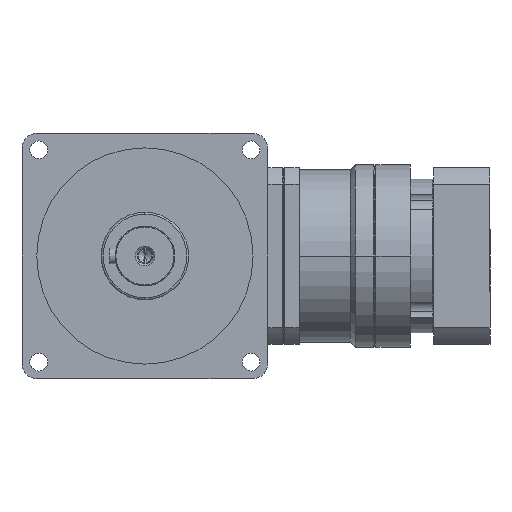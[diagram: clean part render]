
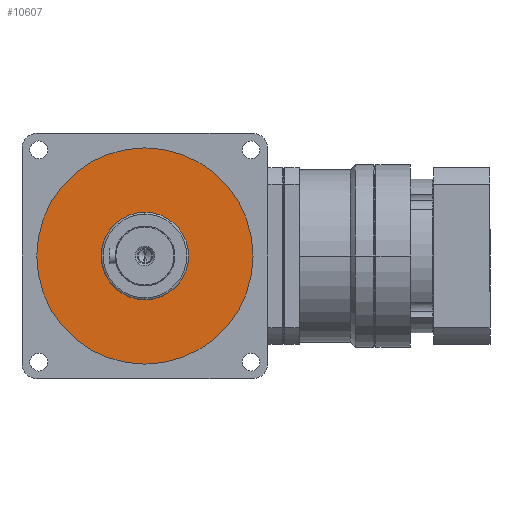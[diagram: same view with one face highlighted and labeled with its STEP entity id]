
A CAD part, left-side view. The second image highlights one B-rep face of the part: STEP entity #10607.
In plain terms, the highlighted planar face has unit normal (-1, 0, 0).
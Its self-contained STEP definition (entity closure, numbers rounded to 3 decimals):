
#434 = ORIENTED_EDGE ( 'NONE', *, *, #3224, .T. ) ;
#851 = EDGE_CURVE ( 'NONE', #5359, #8096, #12232, .T. ) ;
#1315 = CARTESIAN_POINT ( 'NONE',  ( -41.5, 0., 0. ) ) ;
#1388 = DIRECTION ( 'NONE',  ( 0., 0., 1. ) ) ;
#1651 = CARTESIAN_POINT ( 'NONE',  ( -41.5, 0., 0. ) ) ;
#1689 = DIRECTION ( 'NONE',  ( -1., 0., 0. ) ) ;
#1693 = CARTESIAN_POINT ( 'NONE',  ( -41.5, 0., 0. ) ) ;
#2670 = CIRCLE ( 'NONE', #13444, 22.25 ) ;
#2954 = DIRECTION ( 'NONE',  ( -1., 0., 0. ) ) ;
#3088 = DIRECTION ( 'NONE',  ( -1., 0., 0. ) ) ;
#3224 = EDGE_CURVE ( 'NONE', #8096, #5359, #12503, .T. ) ;
#3910 = CIRCLE ( 'NONE', #8794, 22.25 ) ;
#3919 = AXIS2_PLACEMENT_3D ( 'NONE', #12185, #1689, #7589 ) ;
#4235 = VERTEX_POINT ( 'NONE', #5267 ) ;
#4905 = EDGE_LOOP ( 'NONE', ( #10546, #434 ) ) ;
#5007 = DIRECTION ( 'NONE',  ( 0., 0., 1. ) ) ;
#5193 = VERTEX_POINT ( 'NONE', #9332 ) ;
#5267 = CARTESIAN_POINT ( 'NONE',  ( -41.5, 0., -22.25 ) ) ;
#5320 = CARTESIAN_POINT ( 'NONE',  ( -41.5, 0., 0. ) ) ;
#5359 = VERTEX_POINT ( 'NONE', #14076 ) ;
#5898 = AXIS2_PLACEMENT_3D ( 'NONE', #1651, #2954, #14550 ) ;
#7382 = FACE_OUTER_BOUND ( 'NONE', #4905, .T. ) ;
#7589 = DIRECTION ( 'NONE',  ( 0., 0., 1. ) ) ;
#7803 = AXIS2_PLACEMENT_3D ( 'NONE', #1315, #10682, #1388 ) ;
#8096 = VERTEX_POINT ( 'NONE', #9640 ) ;
#8794 = AXIS2_PLACEMENT_3D ( 'NONE', #5320, #3088, #11370 ) ;
#9332 = CARTESIAN_POINT ( 'NONE',  ( -41.5, 0., 22.25 ) ) ;
#9640 = CARTESIAN_POINT ( 'NONE',  ( -41.5, 0., -55. ) ) ;
#10546 = ORIENTED_EDGE ( 'NONE', *, *, #851, .T. ) ;
#10607 = ADVANCED_FACE ( 'NONE', ( #12057, #7382 ), #14303, .T. ) ;
#10682 = DIRECTION ( 'NONE',  ( -1., 0., 0. ) ) ;
#11119 = DIRECTION ( 'NONE',  ( -1., 0., 0. ) ) ;
#11258 = EDGE_LOOP ( 'NONE', ( #11890, #14301 ) ) ;
#11370 = DIRECTION ( 'NONE',  ( 0., 0., 1. ) ) ;
#11760 = EDGE_CURVE ( 'NONE', #5193, #4235, #2670, .T. ) ;
#11890 = ORIENTED_EDGE ( 'NONE', *, *, #14194, .F. ) ;
#12057 = FACE_BOUND ( 'NONE', #11258, .T. ) ;
#12185 = CARTESIAN_POINT ( 'NONE',  ( -41.5, 0., 0. ) ) ;
#12232 = CIRCLE ( 'NONE', #3919, 55. ) ;
#12503 = CIRCLE ( 'NONE', #5898, 55. ) ;
#13444 = AXIS2_PLACEMENT_3D ( 'NONE', #1693, #11119, #5007 ) ;
#14076 = CARTESIAN_POINT ( 'NONE',  ( -41.5, 0., 55. ) ) ;
#14194 = EDGE_CURVE ( 'NONE', #4235, #5193, #3910, .T. ) ;
#14301 = ORIENTED_EDGE ( 'NONE', *, *, #11760, .F. ) ;
#14303 = PLANE ( 'NONE',  #7803 ) ;
#14550 = DIRECTION ( 'NONE',  ( 0., 0., 1. ) ) ;
